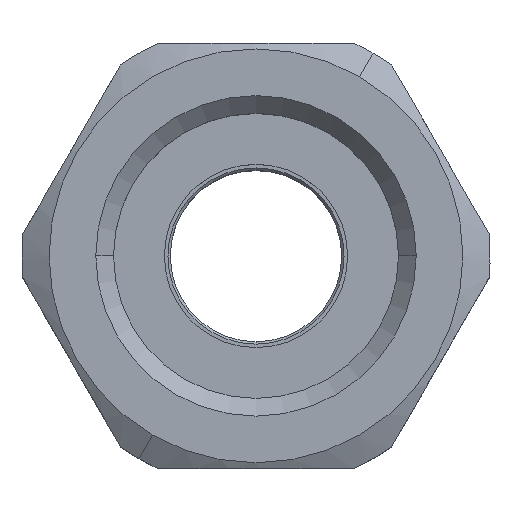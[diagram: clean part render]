
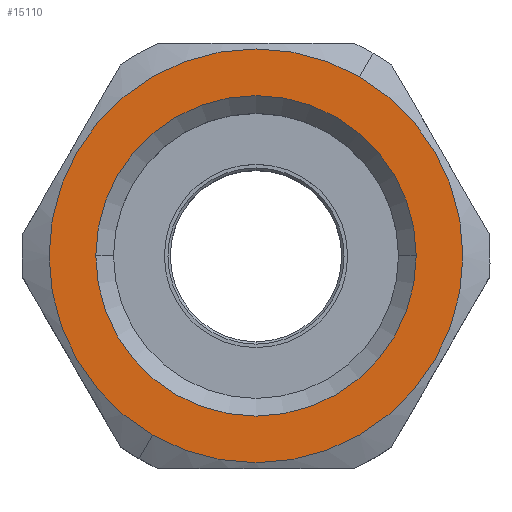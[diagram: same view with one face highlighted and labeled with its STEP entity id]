
A CAD part, top view. The second image highlights one B-rep face of the part: STEP entity #15110.
In plain terms, the highlighted planar face has unit normal (0, 0, 1).
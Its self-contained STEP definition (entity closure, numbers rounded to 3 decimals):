
#4670=CARTESIAN_POINT('',(97.704,46.757,-44.84));
#4680=VERTEX_POINT('',#4670);
#4710=CARTESIAN_POINT('',(84.151,46.757,-44.84));
#4720=DIRECTION('',(0.,0.,1.));
#4730=DIRECTION('',(-1.,0.,0.));
#4740=AXIS2_PLACEMENT_3D('',#4710,#4720,#4730);
#4750=CIRCLE('',#4740,13.553);
#4760=CARTESIAN_POINT('',(70.598,46.757,-44.84));
#4770=VERTEX_POINT('',#4760);
#4780=EDGE_CURVE('',#4770,#4680,#4750,.T.);
#7650=CARTESIAN_POINT('',(92.901,61.912,-44.84));
#7660=VERTEX_POINT('',#7650);
#7690=CARTESIAN_POINT('',(84.151,46.757,-44.84));
#7700=DIRECTION('',(0.,0.,-1.));
#7710=DIRECTION('',(-1.,0.,0.));
#7720=AXIS2_PLACEMENT_3D('',#7690,#7700,#7710);
#7730=CIRCLE('',#7720,17.5);
#7740=CARTESIAN_POINT('',(66.651,46.757,-44.84));
#7750=VERTEX_POINT('',#7740);
#7760=EDGE_CURVE('',#7750,#7660,#7730,.T.);
#7780=CARTESIAN_POINT('',(75.401,31.601,-44.84));
#7790=VERTEX_POINT('',#7780);
#7800=EDGE_CURVE('',#7790,#7750,#7730,.T.);
#14950=CARTESIAN_POINT('',(65.526,46.757,-44.84));
#14960=DIRECTION('',(0.,0.,1.));
#14970=DIRECTION('',(1.,0.,0.));
#14980=AXIS2_PLACEMENT_3D('',#14950,#14960,#14970);
#14990=PLANE('',#14980);
#15000=EDGE_CURVE('',#4680,#4770,#4750,.T.);
#15010=ORIENTED_EDGE('',*,*,#15000,.F.);
#15020=ORIENTED_EDGE('',*,*,#4780,.F.);
#15030=EDGE_LOOP('',(#15020,#15010));
#15040=FACE_BOUND('',#15030,.T.);
#15050=ORIENTED_EDGE('',*,*,#7760,.F.);
#15060=EDGE_CURVE('',#7660,#7790,#7730,.T.);
#15070=ORIENTED_EDGE('',*,*,#15060,.F.);
#15080=ORIENTED_EDGE('',*,*,#7800,.F.);
#15090=EDGE_LOOP('',(#15080,#15070,#15050));
#15100=FACE_OUTER_BOUND('',#15090,.T.);
#15110=ADVANCED_FACE('',(#15040,#15100),#14990,.T.);
